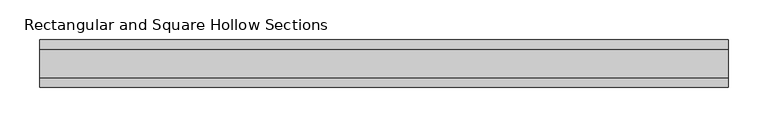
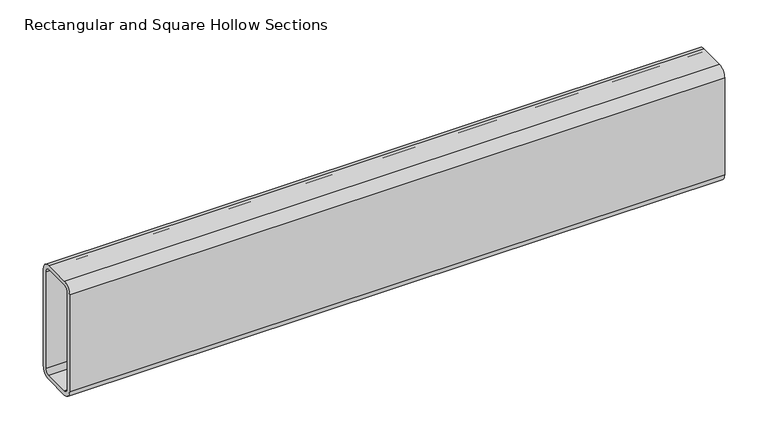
"""IFC4 building model written with IfcOpenShell, lengths in millimetres: beam geometry, Rectangular and Square Hollow Sections : TREC160x60x6."""

from ifc_helpers import new_model, si_unit, point, frame, frame_2d, origin, place, context, project, spatial, polyline, circle_curve, trimmed, segment, composite_curve, outline, extrude, source, transform, mapped, element, save


def rectangular_and_square_hollow_sections_a38e4463(model_context):
    return source(origin(), model_context, "Body", "SweptSolid", [
        extrude(outline(composite_curve([segment(polyline([(30.0, 68.0), (30.0, -68.0)]), True, "CONTINUOUS"), segment(trimmed(circle_curve(frame_2d((18.0, -68.0)), 12.0), [point((30.0, -68.0))], [point((18.0, -80.0))], False, "CARTESIAN"), True, "CONTINUOUS"), segment(polyline([(18.0, -80.0), (-18.0, -80.0)]), True, "CONTINUOUS"), segment(trimmed(circle_curve(frame_2d((-18.0, -68.0)), 12.0), [point((-18.0, -80.0))], [point((-30.0, -68.0))], False, "CARTESIAN"), True, "CONTINUOUS"), segment(polyline([(-30.0, -68.0), (-30.0, 68.0)]), True, "CONTINUOUS"), segment(trimmed(circle_curve(frame_2d((-18.0, 68.0)), 12.0), [point((-30.0, 68.0))], [point((-18.0, 80.0))], False, "CARTESIAN"), True, "CONTINUOUS"), segment(polyline([(-18.0, 80.0), (18.0, 80.0)]), True, "CONTINUOUS"), segment(trimmed(circle_curve(frame_2d((18.0, 68.0)), 12.0), [point((18.0, 80.0))], [point((30.0, 68.0))], False, "CARTESIAN"), True, "CONTINUOUS")], self_intersect=False), holes=[composite_curve([segment(trimmed(circle_curve(frame_2d((-18.0, 68.0)), 6.0), [point((-18.0, 74.0))], [point((-24.0, 68.0))], True, "CARTESIAN"), True, "CONTINUOUS"), segment(polyline([(-24.0, 68.0), (-24.0, -68.0)]), True, "CONTINUOUS"), segment(trimmed(circle_curve(frame_2d((-18.0, -68.0)), 6.0), [point((-24.0, -68.0))], [point((-18.0, -74.0))], True, "CARTESIAN"), True, "CONTINUOUS"), segment(polyline([(-18.0, -74.0), (18.0, -74.0)]), True, "CONTINUOUS"), segment(trimmed(circle_curve(frame_2d((18.0, -68.0)), 6.0), [point((18.0, -74.0))], [point((24.0, -68.0))], True, "CARTESIAN"), True, "CONTINUOUS"), segment(polyline([(24.0, -68.0), (24.0, 68.0)]), True, "CONTINUOUS"), segment(trimmed(circle_curve(frame_2d((18.0, 68.0)), 6.0), [point((24.0, 68.0))], [point((18.0, 74.0))], True, "CARTESIAN"), True, "CONTINUOUS"), segment(polyline([(18.0, 74.0), (-18.0, 74.0)]), True, "CONTINUOUS")], self_intersect=False)]), frame((-272.0, 0.0, 0.0), z_axis=(1.0, 0.0, 0.0), x_axis=(0.0, 1.0, 0.0)), (0.0, 0.0, 1.0), 870.0),
    ])


if __name__ == "__main__":
    model = new_model("IFC4")
    model_context = context("Model", 3, world=origin())
    ifc_project = project(units=[si_unit("LENGTHUNIT", "METRE", prefix="MILLI")], contexts=[model_context])
    site = spatial("IfcSite", under=ifc_project)
    building = spatial("IfcBuilding", under=site)
    placement = place(None, origin())
    rectangular_and_square_hollow_sections_shape = rectangular_and_square_hollow_sections_a38e4463(model_context)
    element("IfcBeam", 1, ObjectType="Rectangular and Square Hollow Sections : TREC160x60x6", at=placement, inside=building, context=model_context, shape_type="MappedRepresentation", body=[
        mapped(rectangular_and_square_hollow_sections_shape, transform((0.0, 0.0, 0.0), x_axis=(1.0, 0.0, 0.0), y_axis=(0.0, 1.0, 0.0), z_axis=(0.0, 0.0, 1.0))),
    ])
    save(model, "model.ifc")
